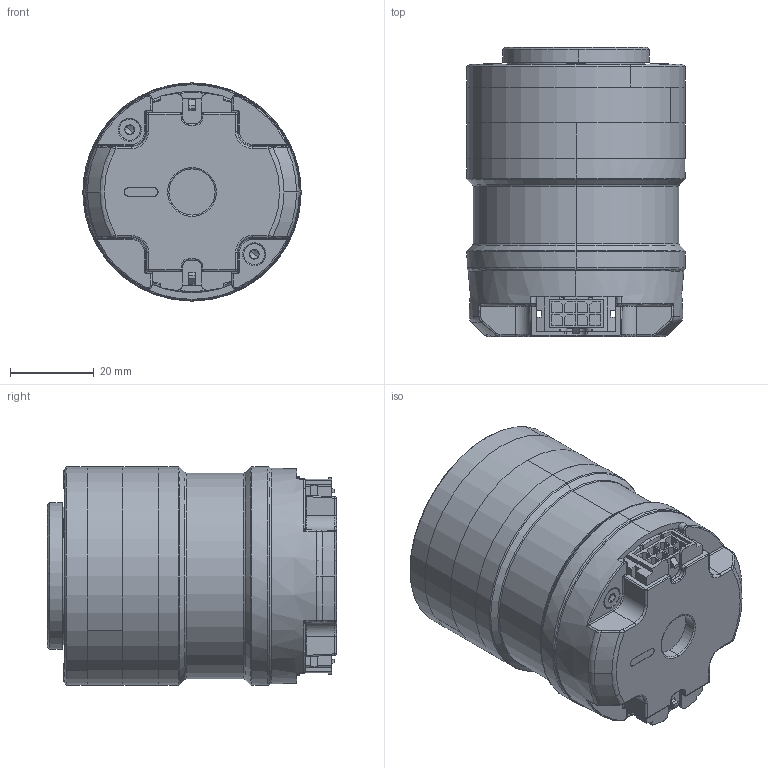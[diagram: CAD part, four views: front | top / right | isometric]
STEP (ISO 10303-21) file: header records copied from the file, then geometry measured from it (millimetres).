
FILE_DESCRIPTION (( 'STEP AP214' ), '1' );
FILE_NAME ('QDD-3510-36_v2_2.STEP', '2019-05-08T07:59:39', ( 'Microsoft' ), ( 'Microsoft' ), 'SwSTEP 2.0', 'SolidWorks 2018', '' );
FILE_SCHEMA (( 'AUTOMOTIVE_DESIGN' ));
Length unit declared in the file: millimetre
Products named in the file (1): QDD-3510-36_v2_2
Bounding box: 52 x 68.9 x 52 mm (x, y, z)
Volume: 112302.4 mm3; surface area: 54116.2 mm2
Topology: 25 solids, 25 shells, 1736 faces, 4323 edges, 2671 vertices
Faces by surface type: plane 982, cylinder 384, cone 180, bspline 99, torus 86, sphere 5
Entity records: 75405 total; most frequent: CARTESIAN_POINT 15835, ORIENTED_EDGE 8552, DIRECTION 7864, EDGE_CURVE 4276, LINE 2834, VECTOR 2834, VERTEX_POINT 2671, AXIS2_PLACEMENT_3D 2515
